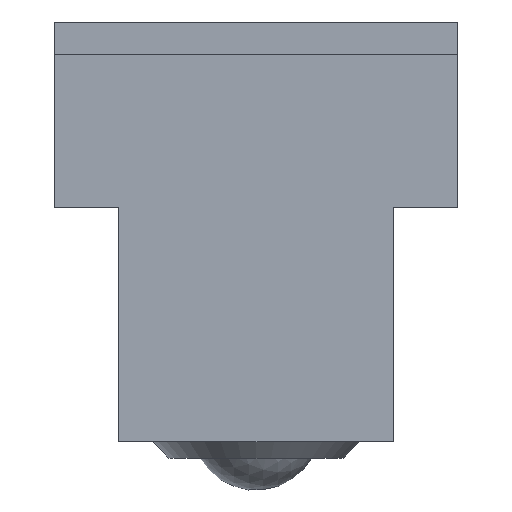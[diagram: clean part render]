
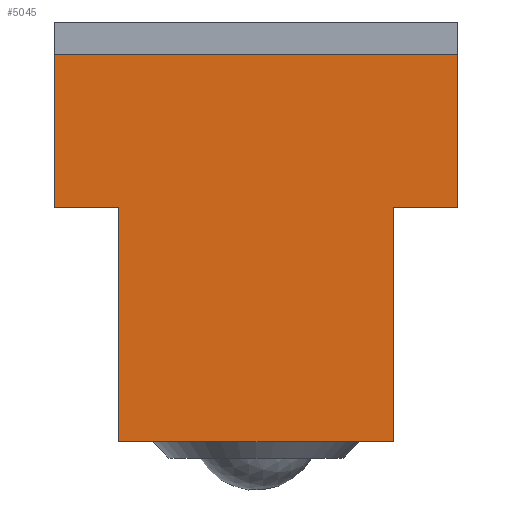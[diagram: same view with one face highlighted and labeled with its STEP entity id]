
A CAD part, left-side view. The second image highlights one B-rep face of the part: STEP entity #5045.
In plain terms, the highlighted planar face has unit normal (-1, 0, 0) as drawn and (0, 0, -1) by its records, which use the part's own axes.
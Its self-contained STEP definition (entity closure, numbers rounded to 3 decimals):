
#492=LINE('',#7990,#740);
#497=LINE('',#8000,#745);
#504=LINE('',#8026,#752);
#511=LINE('',#8040,#759);
#514=LINE('',#8044,#762);
#515=LINE('',#8046,#763);
#516=LINE('',#8049,#764);
#518=LINE('',#8052,#766);
#740=VECTOR('',#6435,14.5);
#745=VECTOR('',#6442,4.);
#752=VECTOR('',#6471,14.5);
#759=VECTOR('',#6482,9.5);
#762=VECTOR('',#6487,4.);
#763=VECTOR('',#6490,17.);
#764=VECTOR('',#6493,9.5);
#766=VECTOR('',#6497,25.);
#984=PLANE('',#5494);
#1571=FACE_OUTER_BOUND('',#2046,.T.);
#2046=EDGE_LOOP('',(#4053,#4054,#4055,#4056,#4057,#4058,#4059,#4060));
#2784=VERTEX_POINT('',#7987);
#2785=VERTEX_POINT('',#7989);
#2788=VERTEX_POINT('',#7997);
#2789=VERTEX_POINT('',#7999);
#2797=VERTEX_POINT('',#8025);
#2801=VERTEX_POINT('',#8038);
#2802=VERTEX_POINT('',#8039);
#2803=VERTEX_POINT('',#8048);
#3258=EDGE_CURVE('',#2784,#2785,#492,.T.);
#3263=EDGE_CURVE('',#2788,#2789,#497,.T.);
#3274=EDGE_CURVE('',#2789,#2797,#504,.T.);
#3281=EDGE_CURVE('',#2801,#2802,#511,.T.);
#3284=EDGE_CURVE('',#2785,#2801,#514,.T.);
#3285=EDGE_CURVE('',#2797,#2784,#515,.T.);
#3286=EDGE_CURVE('',#2803,#2788,#516,.T.);
#3288=EDGE_CURVE('',#2802,#2803,#518,.T.);
#4053=ORIENTED_EDGE('',*,*,#3288,.F.);
#4054=ORIENTED_EDGE('',*,*,#3281,.F.);
#4055=ORIENTED_EDGE('',*,*,#3284,.F.);
#4056=ORIENTED_EDGE('',*,*,#3258,.F.);
#4057=ORIENTED_EDGE('',*,*,#3285,.F.);
#4058=ORIENTED_EDGE('',*,*,#3274,.F.);
#4059=ORIENTED_EDGE('',*,*,#3263,.F.);
#4060=ORIENTED_EDGE('',*,*,#3286,.F.);
#5045=ADVANCED_FACE('',(#1571),#984,.F.);
#5494=AXIS2_PLACEMENT_3D('',#8053,#6498,#6499);
#6435=DIRECTION('',(0.,-1.,0.));
#6442=DIRECTION('',(-1.,0.,0.));
#6471=DIRECTION('',(0.,1.,0.));
#6482=DIRECTION('',(0.,-1.,0.));
#6487=DIRECTION('',(-1.,0.,0.));
#6490=DIRECTION('',(-1.,0.,0.));
#6493=DIRECTION('',(0.,1.,0.));
#6497=DIRECTION('',(1.,0.,0.));
#6498=DIRECTION('center_axis',(0.,0.,1.));
#6499=DIRECTION('ref_axis',(1.,0.,0.));
#7987=CARTESIAN_POINT('',(4.,24.,0.));
#7989=CARTESIAN_POINT('',(4.,9.5,0.));
#7990=CARTESIAN_POINT('',(4.,24.,0.));
#7997=CARTESIAN_POINT('',(25.,9.5,0.));
#7999=CARTESIAN_POINT('',(21.,9.5,0.));
#8000=CARTESIAN_POINT('',(25.,9.5,0.));
#8025=CARTESIAN_POINT('',(21.,24.,0.));
#8026=CARTESIAN_POINT('',(21.,9.5,0.));
#8038=CARTESIAN_POINT('',(0.,9.5,0.));
#8039=CARTESIAN_POINT('',(0.,0.,0.));
#8040=CARTESIAN_POINT('',(0.,9.5,0.));
#8044=CARTESIAN_POINT('',(4.,9.5,0.));
#8046=CARTESIAN_POINT('',(21.,24.,0.));
#8048=CARTESIAN_POINT('',(25.,0.,0.));
#8049=CARTESIAN_POINT('',(25.,0.,0.));
#8052=CARTESIAN_POINT('',(0.,0.,0.));
#8053=CARTESIAN_POINT('Origin',(12.5,10.816,0.));
